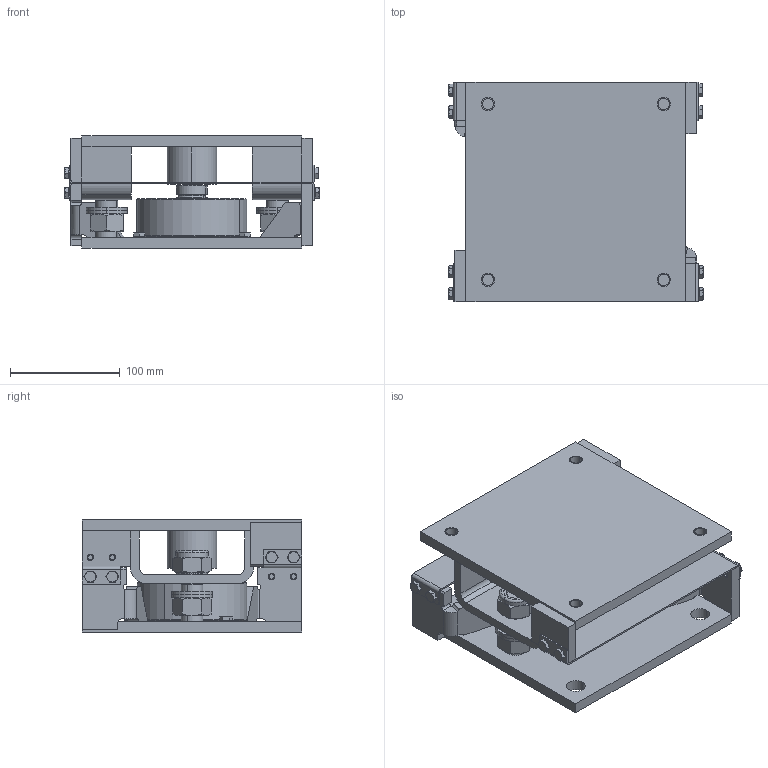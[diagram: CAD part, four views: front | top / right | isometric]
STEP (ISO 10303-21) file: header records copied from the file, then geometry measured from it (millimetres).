
FILE_DESCRIPTION((''),'1');
FILE_NAME('LMLAW_15000_kg.step','2020-05-18T09:58:31',(''),(''),'','','');
FILE_SCHEMA(('AUTOMOTIVE_DESIGN { 1 0 10303 214 1 1 1 1 }'));
Products named in the file (19): LMLAW plate 01; LMLAW base 01; LMLAW part 02; LMLAW plate 02; LMLAW part 03; LMLAW 15000_kg; LMLAW part 04; LMLAW load cell 01; LMLAW body 01; LMLAW cable gland 01; LMLAW plate 03; LMLAW base 03; LMLAW plate 04; LMLAW pin 01; LMLAW screw 01; LMLAW screw 02; LMLAW nut 01; LMLAW screw 03; LMLAW nut 02
Assembly tree (37 placements, depth 3):
  LMLAW 15000_kg
    LMLAW plate 01
      LMLAW base 01
      LMLAW part 02  x2
      LMLAW plate 02  x2
      LMLAW part 03
    LMLAW part 04  x2
    LMLAW load cell 01
      LMLAW body 01
      LMLAW cable gland 01
    LMLAW plate 03
      LMLAW base 03
      LMLAW plate 04  x2
      LMLAW pin 01  x2
    LMLAW screw 01  x3
    LMLAW screw 02  x8
    LMLAW nut 01  x2
    LMLAW screw 03  x4
    LMLAW nut 02  x2
Bounding box: 231.25 x 200 x 102 mm (x, y, z)
Volume: 1457294.1 mm3; surface area: 370220.6 mm2
Topology: 34 solids, 55 shells, 820 faces, 1907 edges, 1195 vertices
Faces by surface type: cylinder 292, plane 289, cone 200, torus 36, bspline 2, sphere 1
Entity records: 12156 total; most frequent: CARTESIAN_POINT 2211, DIRECTION 2123, ORIENTED_EDGE 1766, EDGE_CURVE 913, AXIS2_PLACEMENT_3D 859, VERTEX_POINT 574, EDGE_LOOP 455, CIRCLE 420
